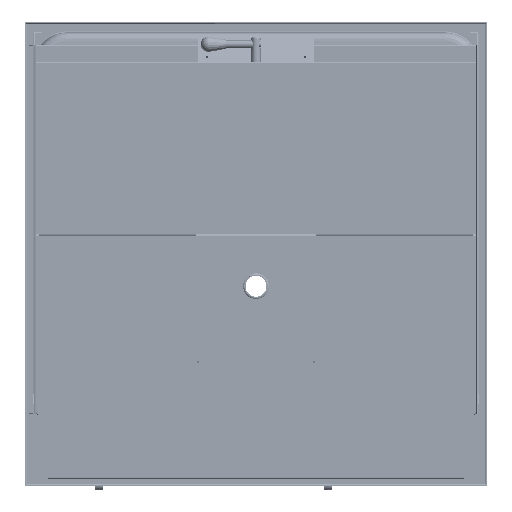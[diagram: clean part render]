
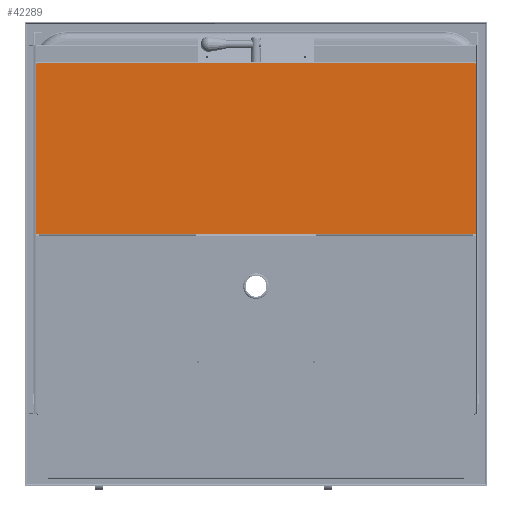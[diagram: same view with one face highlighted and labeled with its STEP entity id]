
A CAD part, front view. The second image highlights one B-rep face of the part: STEP entity #42289.
In plain terms, the highlighted planar face has unit normal (0, -1, 0).
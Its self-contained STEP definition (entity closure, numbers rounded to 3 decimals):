
#1349 = DIRECTION ( 'NONE',  ( 0., 0., -1. ) ) ;
#8228 = CARTESIAN_POINT ( 'NONE',  ( -284., -436.39, -62.857 ) ) ;
#10499 = EDGE_CURVE ( 'NONE', #161788, #140195, #154596, .T. ) ;
#10730 = CARTESIAN_POINT ( 'NONE',  ( 284., -436.39, -62.857 ) ) ;
#10888 = ORIENTED_EDGE ( 'NONE', *, *, #166606, .F. ) ;
#12269 = ORIENTED_EDGE ( 'NONE', *, *, #49802, .T. ) ;
#13451 = LINE ( 'NONE', #10730, #63736 ) ;
#16708 = VECTOR ( 'NONE', #1349, 1000. ) ;
#20055 = CARTESIAN_POINT ( 'NONE',  ( -77.5, -436.39, -282.8 ) ) ;
#20480 = VERTEX_POINT ( 'NONE', #165389 ) ;
#21333 = VECTOR ( 'NONE', #50778, 1000. ) ;
#21917 = CARTESIAN_POINT ( 'NONE',  ( -281., -436.39, -282.8 ) ) ;
#26170 = CARTESIAN_POINT ( 'NONE',  ( 283.5, -436.39, -62.857 ) ) ;
#26180 = CARTESIAN_POINT ( 'NONE',  ( 281., -436.39, -282.8 ) ) ;
#28424 = CARTESIAN_POINT ( 'NONE',  ( -284., -436.39, -282.8 ) ) ;
#30782 = DIRECTION ( 'NONE',  ( 0., -1., 0. ) ) ;
#33145 = LINE ( 'NONE', #34038, #158178 ) ;
#33247 = ORIENTED_EDGE ( 'NONE', *, *, #41892, .F. ) ;
#34038 = CARTESIAN_POINT ( 'NONE',  ( 286., -436.39, -61.8 ) ) ;
#34866 = LINE ( 'NONE', #21917, #133409 ) ;
#35472 = ORIENTED_EDGE ( 'NONE', *, *, #151831, .F. ) ;
#36027 = LINE ( 'NONE', #74969, #61702 ) ;
#37095 = ORIENTED_EDGE ( 'NONE', *, *, #157004, .T. ) ;
#37189 = CARTESIAN_POINT ( 'NONE',  ( 284., -436.39, -62.857 ) ) ;
#40525 = CARTESIAN_POINT ( 'NONE',  ( 77.5, -436.39, -282.8 ) ) ;
#40762 = DIRECTION ( 'NONE',  ( -1., 0., 0. ) ) ;
#41892 = EDGE_CURVE ( 'NONE', #67741, #114003, #72635, .T. ) ;
#42193 = CARTESIAN_POINT ( 'NONE',  ( -284., -436.39, -282.8 ) ) ;
#42289 = ADVANCED_FACE ( 'NONE', ( #83545 ), #43738, .T. ) ;
#43738 = PLANE ( 'NONE',  #111332 ) ;
#44227 = EDGE_CURVE ( 'NONE', #148344, #142170, #168964, .T. ) ;
#44301 = VERTEX_POINT ( 'NONE', #37189 ) ;
#44767 = EDGE_LOOP ( 'NONE', ( #12269, #66503, #10888, #147207, #96561, #37095, #61062, #153340, #83147, #35472, #64384, #33247 ) ) ;
#46354 = CARTESIAN_POINT ( 'NONE',  ( 283.5, -436.39, -61.8 ) ) ;
#49667 = VECTOR ( 'NONE', #81073, 1000. ) ;
#49802 = EDGE_CURVE ( 'NONE', #67741, #176350, #33145, .T. ) ;
#50178 = EDGE_CURVE ( 'NONE', #59042, #148344, #90258, .T. ) ;
#50778 = DIRECTION ( 'NONE',  ( 1., 0., 0. ) ) ;
#53934 = DIRECTION ( 'NONE',  ( 1., 0., 0. ) ) ;
#57773 = VECTOR ( 'NONE', #164884, 1000. ) ;
#59042 = VERTEX_POINT ( 'NONE', #122549 ) ;
#61062 = ORIENTED_EDGE ( 'NONE', *, *, #113643, .F. ) ;
#61702 = VECTOR ( 'NONE', #148023, 1000. ) ;
#63736 = VECTOR ( 'NONE', #98559, 1000. ) ;
#64207 = VECTOR ( 'NONE', #145559, 1000. ) ;
#64384 = ORIENTED_EDGE ( 'NONE', *, *, #130631, .F. ) ;
#64462 = CARTESIAN_POINT ( 'NONE',  ( 77.5, -436.39, -282.8 ) ) ;
#66503 = ORIENTED_EDGE ( 'NONE', *, *, #101305, .F. ) ;
#67741 = VERTEX_POINT ( 'NONE', #46354 ) ;
#72635 = LINE ( 'NONE', #154094, #16708 ) ;
#74969 = CARTESIAN_POINT ( 'NONE',  ( -281., -436.39, -282.8 ) ) ;
#79811 = CARTESIAN_POINT ( 'NONE',  ( -286., -436.39, -282.8 ) ) ;
#81073 = DIRECTION ( 'NONE',  ( -1., 0., 0. ) ) ;
#83147 = ORIENTED_EDGE ( 'NONE', *, *, #10499, .F. ) ;
#83545 = FACE_OUTER_BOUND ( 'NONE', #44767, .T. ) ;
#90258 = LINE ( 'NONE', #79811, #57773 ) ;
#90463 = DIRECTION ( 'NONE',  ( -1., 0., 0. ) ) ;
#96561 = ORIENTED_EDGE ( 'NONE', *, *, #50178, .F. ) ;
#98559 = DIRECTION ( 'NONE',  ( 0., 0., -1. ) ) ;
#99236 = DIRECTION ( 'NONE',  ( -1., 0., 0. ) ) ;
#101305 = EDGE_CURVE ( 'NONE', #20480, #176350, #167494, .T. ) ;
#103171 = CARTESIAN_POINT ( 'NONE',  ( 283.5, -436.39, -62.857 ) ) ;
#105936 = VECTOR ( 'NONE', #179540, 1000. ) ;
#111284 = CARTESIAN_POINT ( 'NONE',  ( 284., -436.39, -282.8 ) ) ;
#111332 = AXIS2_PLACEMENT_3D ( 'NONE', #156665, #30782, #99236 ) ;
#111975 = CARTESIAN_POINT ( 'NONE',  ( -286., -436.39, -282.8 ) ) ;
#113643 = EDGE_CURVE ( 'NONE', #124128, #148515, #178243, .T. ) ;
#114003 = VERTEX_POINT ( 'NONE', #103171 ) ;
#118037 = EDGE_CURVE ( 'NONE', #124128, #140195, #34866, .T. ) ;
#120882 = DIRECTION ( 'NONE',  ( 1., 0., 0. ) ) ;
#122549 = CARTESIAN_POINT ( 'NONE',  ( -281., -436.39, -282.8 ) ) ;
#124128 = VERTEX_POINT ( 'NONE', #40525 ) ;
#130631 = EDGE_CURVE ( 'NONE', #114003, #44301, #180672, .T. ) ;
#133409 = VECTOR ( 'NONE', #120882, 1000. ) ;
#140195 = VERTEX_POINT ( 'NONE', #26180 ) ;
#141656 = CARTESIAN_POINT ( 'NONE',  ( -283.5, -436.39, -61.8 ) ) ;
#142170 = VERTEX_POINT ( 'NONE', #171915 ) ;
#145559 = DIRECTION ( 'NONE',  ( 0., 0., 1. ) ) ;
#147207 = ORIENTED_EDGE ( 'NONE', *, *, #44227, .F. ) ;
#148023 = DIRECTION ( 'NONE',  ( 1., 0., 0. ) ) ;
#148344 = VERTEX_POINT ( 'NONE', #28424 ) ;
#148515 = VERTEX_POINT ( 'NONE', #20055 ) ;
#150901 = CARTESIAN_POINT ( 'NONE',  ( -283.5, -436.39, -62.857 ) ) ;
#151627 = VECTOR ( 'NONE', #53934, 1000. ) ;
#151831 = EDGE_CURVE ( 'NONE', #44301, #161788, #13451, .T. ) ;
#153340 = ORIENTED_EDGE ( 'NONE', *, *, #118037, .T. ) ;
#154094 = CARTESIAN_POINT ( 'NONE',  ( 283.5, -436.39, -62.357 ) ) ;
#154596 = LINE ( 'NONE', #111975, #182936 ) ;
#156665 = CARTESIAN_POINT ( 'NONE',  ( 0., -436.39, -171.3 ) ) ;
#157004 = EDGE_CURVE ( 'NONE', #59042, #148515, #36027, .T. ) ;
#158178 = VECTOR ( 'NONE', #90463, 1000. ) ;
#161788 = VERTEX_POINT ( 'NONE', #111284 ) ;
#161855 = LINE ( 'NONE', #8228, #21333 ) ;
#164884 = DIRECTION ( 'NONE',  ( -1., 0., 0. ) ) ;
#165389 = CARTESIAN_POINT ( 'NONE',  ( -283.5, -436.39, -62.857 ) ) ;
#166606 = EDGE_CURVE ( 'NONE', #142170, #20480, #161855, .T. ) ;
#167494 = LINE ( 'NONE', #150901, #105936 ) ;
#168964 = LINE ( 'NONE', #42193, #64207 ) ;
#171915 = CARTESIAN_POINT ( 'NONE',  ( -284., -436.39, -62.857 ) ) ;
#176350 = VERTEX_POINT ( 'NONE', #141656 ) ;
#178243 = LINE ( 'NONE', #64462, #49667 ) ;
#179540 = DIRECTION ( 'NONE',  ( 0., 0., 1. ) ) ;
#180672 = LINE ( 'NONE', #26170, #151627 ) ;
#182936 = VECTOR ( 'NONE', #40762, 1000. ) ;
